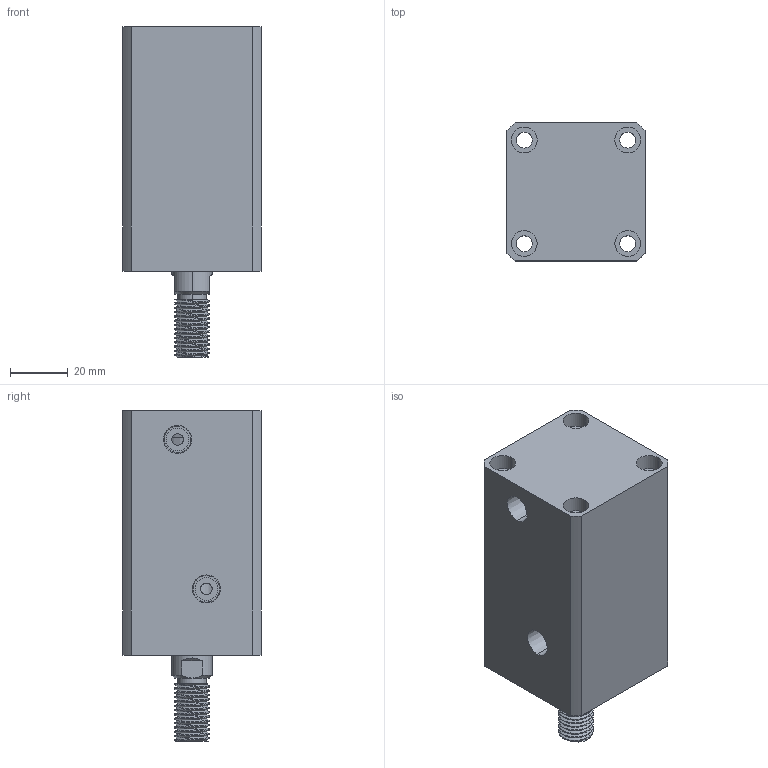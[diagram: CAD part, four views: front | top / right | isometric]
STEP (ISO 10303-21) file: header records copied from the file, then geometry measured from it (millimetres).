
FILE_DESCRIPTION (( 'STEP AP214' ), '1' );
FILE_NAME ('chtb-sd25x40w_asm.STEP', '2018-05-22T09:26:07', ( 'Windows' ), ( 'Microsoft' ), 'SwSTEP 2.0', 'SolidWorks 2015', '' );
FILE_SCHEMA (( 'AUTOMOTIVE_DESIGN' ));
Length unit declared in the file: millimetre
Products named in the file (4): CHTB-25QG; chtb-sd25x40w_asm; CHTB-SD25X40WHSG; CHTB-SD25X40NBT
Assembly tree (3 placements, depth 2):
  chtb-sd25x40w_asm
    CHTB-25QG
    CHTB-SD25X40NBT
    CHTB-SD25X40WHSG
Bounding box: 48 x 48 x 115 mm (x, y, z)
Volume: 172195.8 mm3; surface area: 45462.8 mm2
Topology: 3 solids, 3 shells, 178 faces, 474 edges, 323 vertices
Faces by surface type: cylinder 113, plane 39, cone 14, bspline 12
Entity records: 10610 total; most frequent: CARTESIAN_POINT 6273, ORIENTED_EDGE 940, DIRECTION 778, EDGE_CURVE 470, VERTEX_POINT 323, AXIS2_PLACEMENT_3D 317, EDGE_LOOP 217, FACE_OUTER_BOUND 178
